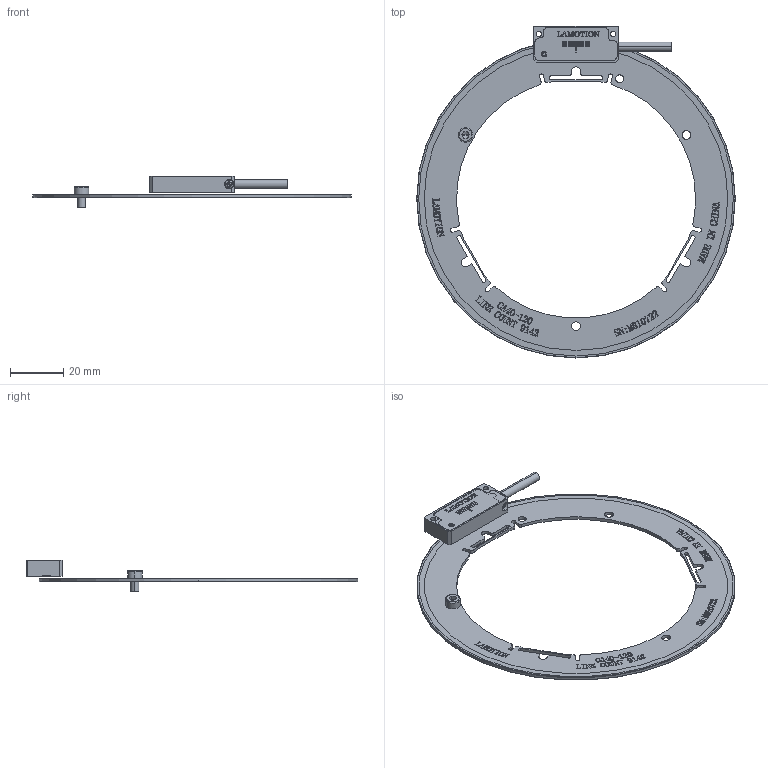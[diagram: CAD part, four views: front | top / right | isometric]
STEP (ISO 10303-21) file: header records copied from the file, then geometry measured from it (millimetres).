
FILE_DESCRIPTION (( 'STEP AP203' ), '1' );
FILE_NAME ('COIN+CA40120鎢攫蚾饜极.STEP', '2024-08-22T01:26:45', ( '' ), ( '' ), 'SwSTEP 2.0', 'SolidWorks 2024', '' );
FILE_SCHEMA (( 'CONFIG_CONTROL_DESIGN' ));
Length unit declared in the file: millimetre
Products named in the file (8): hexagon socket head cap screws gb_GB_FASTENER_SCREWS_HSHCS M3X5-N; 十字槽盘头螺钉 M2-2; LM018-002-01  打标; CA40 120 X 88.5金属码盘; COIN+CA40120码盘装配体; LM018-001-01 B 紧凑壳体; COIN线缆; COIN  装配体 202405W
Assembly tree (7 placements, depth 3):
  COIN+CA40120码盘装配体
    CA40 120 X 88.5金属码盘
    COIN  装配体 202405W
      LM018-002-01  打标
      十字槽盘头螺钉 M2-2
      LM018-001-01 B 紧凑壳体
      COIN线缆
    hexagon socket head cap screws gb_GB_FASTENER_SCREWS_HSHCS M3X5-N
Bounding box: 120 x 125 x 11.9 mm (x, y, z)
Volume: 6988.5 mm3; surface area: 13803.6 mm2
Topology: 6 solids, 6 shells, 1603 faces, 4444 edges, 2947 vertices
Faces by surface type: plane 1002, bspline 418, cylinder 163, cone 12, torus 8
Entity records: 70335 total; most frequent: CARTESIAN_POINT 31098, ORIENTED_EDGE 8876, DIRECTION 6292, EDGE_CURVE 4438, LINE 3214, VECTOR 3214, VERTEX_POINT 2947, EDGE_LOOP 1733
